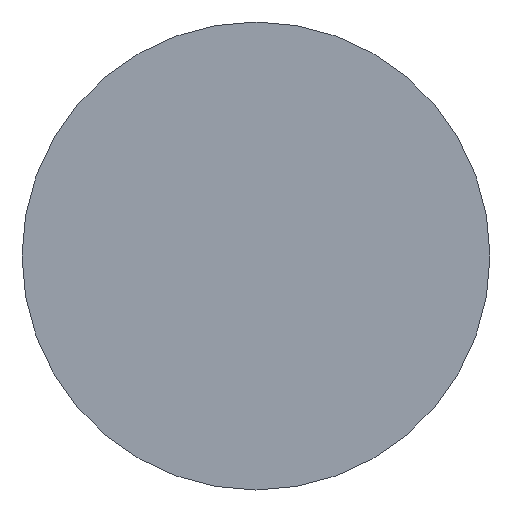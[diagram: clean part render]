
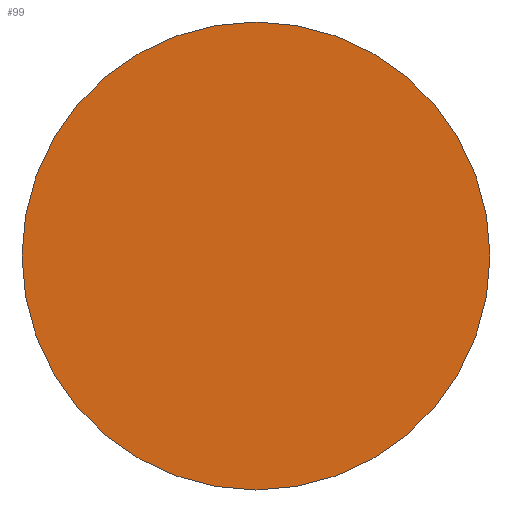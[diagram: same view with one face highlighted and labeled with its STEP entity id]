
A CAD part, left-side view. The second image highlights one B-rep face of the part: STEP entity #99.
In plain terms, the highlighted planar face has unit normal (-1, 0, 0).
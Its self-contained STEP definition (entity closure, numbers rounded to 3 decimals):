
#9 = AXIS2_PLACEMENT_3D ( 'NONE', #84, #81, #80 ) ;
#16 = EDGE_CURVE ( 'NONE', #78, #82, #128, .T. ) ;
#19 = EDGE_CURVE ( 'NONE', #82, #78, #120, .T. ) ;
#22 = AXIS2_PLACEMENT_3D ( 'NONE', #79, #74, #73 ) ;
#28 = AXIS2_PLACEMENT_3D ( 'NONE', #56, #52, #51 ) ;
#51 = DIRECTION ( 'NONE',  ( 0., 0., 1. ) ) ;
#52 = DIRECTION ( 'NONE',  ( -1., 0., 0. ) ) ;
#55 = PLANE ( 'NONE',  #28 ) ;
#56 = CARTESIAN_POINT ( 'NONE',  ( -179.5, 0., 0. ) ) ;
#73 = DIRECTION ( 'NONE',  ( 0., 0., 1. ) ) ;
#74 = DIRECTION ( 'NONE',  ( -1., 0., 0. ) ) ;
#75 = CARTESIAN_POINT ( 'NONE',  ( -179.5, 0., -5.5 ) ) ;
#76 = CARTESIAN_POINT ( 'NONE',  ( -179.5, 0., 5.5 ) ) ;
#78 = VERTEX_POINT ( 'NONE', #76 ) ;
#79 = CARTESIAN_POINT ( 'NONE',  ( -179.5, 0., 0. ) ) ;
#80 = DIRECTION ( 'NONE',  ( 0., 0., 1. ) ) ;
#81 = DIRECTION ( 'NONE',  ( -1., 0., 0. ) ) ;
#82 = VERTEX_POINT ( 'NONE', #75 ) ;
#84 = CARTESIAN_POINT ( 'NONE',  ( -179.5, 0., 0. ) ) ;
#99 = ADVANCED_FACE ( 'NONE', ( #140 ), #55, .T. ) ;
#100 = EDGE_LOOP ( 'NONE', ( #114, #132 ) ) ;
#114 = ORIENTED_EDGE ( 'NONE', *, *, #16, .T. ) ;
#120 = CIRCLE ( 'NONE', #22, 5.5 ) ;
#128 = CIRCLE ( 'NONE', #9, 5.5 ) ;
#132 = ORIENTED_EDGE ( 'NONE', *, *, #19, .T. ) ;
#140 = FACE_OUTER_BOUND ( 'NONE', #100, .T. ) ;
